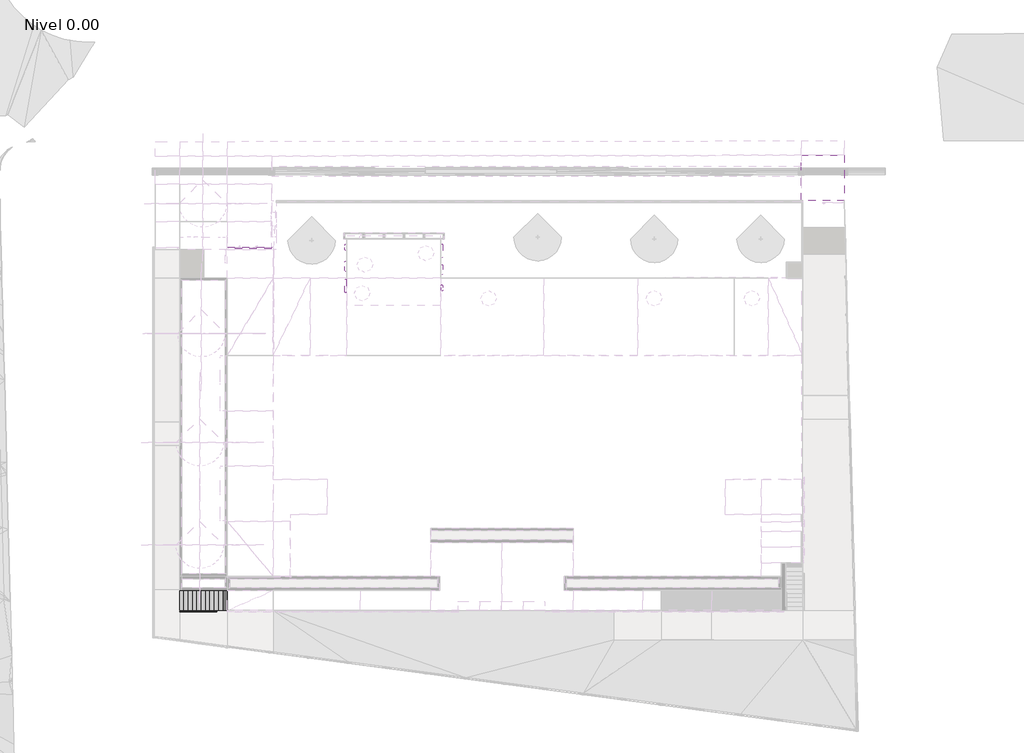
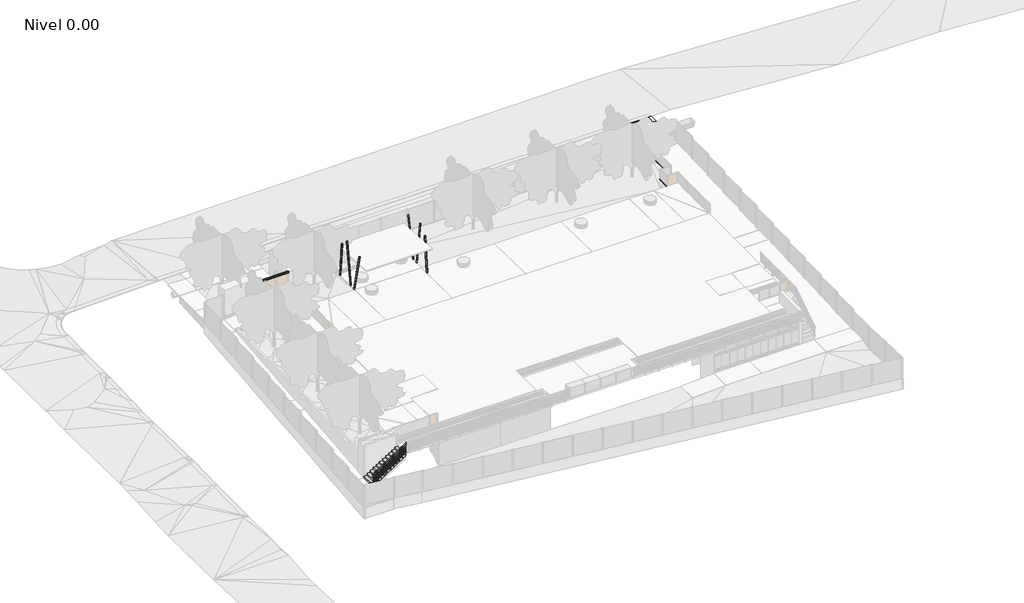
# One storey, part 3 of 10: 6 columns, 3 slabs, 1 beam, 1 railing, 1 stair flight.
"""IFC4 building model written with IfcOpenShell, lengths in millimetres."""

from ifc_helpers import new_model, si_unit, point, frame, frame_2d, origin, place, context, project, spatial, polyline, circle_curve, ellipse_curve, trimmed, segment, composite_curve, outline, extrude, faceted_brep, transform, mapped, element, save
from ifc_brep_helpers import plane_surface, cylinder_surface, advanced_brep
from components import m_double_c_channel_viga_doble_t_140mm_1bed0e81

model = new_model("IFC4")

# Units and contexts
model_context = context("Model", 3, world=origin())
ifc_project = project(units=[si_unit("LENGTHUNIT", "METRE", prefix="MILLI")], contexts=[model_context])

# Site, building, storey
site = spatial("IfcSite", under=ifc_project)
building = spatial("IfcBuilding", under=site)
storey = spatial("IfcBuildingStorey", under=building, Name="Nivel 0.00", Elevation=0.0)

# Beam
placement = place(None, origin())
m_double_c_channel_viga_doble_t_140mm_shape = m_double_c_channel_viga_doble_t_140mm_1bed0e81(model_context)
element("IfcBeam", 1, ObjectType="M_Double C-Channel : VIGA_DOBLE T-140mm", at=placement, inside=storey, context=model_context, shape_type="MappedRepresentation", body=[
    mapped(m_double_c_channel_viga_doble_t_140mm_shape, transform((-17631.1657107, 7729.2316763, 3670.0), x_axis=(1.0, 0.0, 0.0), y_axis=(0.0, 1.0, 0.0), z_axis=(0.0, 0.0, 1.0))),
])

# Columns
element("IfcColumn", 2, ObjectType="CHS-Circular Hollow Section-Column : 114.3x3CHS", at=placement, inside=storey, context=model_context, shape_type="SweptSolid", body=[
    extrude(outline(composite_curve([segment(trimmed(circle_curve(frame_2d((0.0, -50.0)), 50.0), [point((0.0, -100.0))], [point((0.0, 0.0))], False, "CARTESIAN"), True, "CONTINUOUS"), segment(trimmed(circle_curve(frame_2d((0.0, -50.0)), 50.0), [point((0.0, 0.0))], [point((0.0, -100.0))], False, "CARTESIAN"), True, "CONTINUOUS")], self_intersect=False), holes=[composite_curve([segment(trimmed(circle_curve(frame_2d((0.0, -50.0)), 47.0), [point((0.0, -97.0))], [point((0.0, -3.0))], True, "CARTESIAN"), True, "CONTINUOUS"), segment(trimmed(circle_curve(frame_2d((0.0, -50.0)), 47.0), [point((0.0, -3.0))], [point((0.0, -97.0))], True, "CARTESIAN"), True, "CONTINUOUS")], self_intersect=False)]), frame((-11385.5886216, 7912.2831348, 1600.0), z_axis=(0.0, -0.09724305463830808, 0.9952606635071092), x_axis=(0.0, -0.9952606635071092, -0.09724305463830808)), (0.0, 0.0, 1.0), 3165.0),
])
element("IfcColumn", 3, ObjectType="CHS-Circular Hollow Section-Column : 114.3x3CHS", at=placement, inside=storey, context=model_context, shape_type="SweptSolid", body=[
    extrude(outline(composite_curve([segment(trimmed(circle_curve(frame_2d((0.0, -50.0)), 50.0), [point((0.0, -100.0))], [point((0.0, 0.0))], False, "CARTESIAN"), True, "CONTINUOUS"), segment(trimmed(circle_curve(frame_2d((0.0, -50.0)), 50.0), [point((0.0, 0.0))], [point((0.0, -100.0))], False, "CARTESIAN"), True, "CONTINUOUS")], self_intersect=False), holes=[composite_curve([segment(trimmed(circle_curve(frame_2d((0.0, -50.0)), 47.0), [point((0.0, -97.0))], [point((0.0, -3.0))], True, "CARTESIAN"), True, "CONTINUOUS"), segment(trimmed(circle_curve(frame_2d((0.0, -50.0)), 47.0), [point((0.0, -3.0))], [point((0.0, -97.0))], True, "CARTESIAN"), True, "CONTINUOUS")], self_intersect=False)]), frame((-11485.194761, 6252.9306817, 1600.0), z_axis=(0.0, 0.1424922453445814, 0.989795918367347), x_axis=(0.0, 0.989795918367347, -0.1424922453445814)), (0.0, 0.0, 1.0), 3920.0),
])
element("IfcColumn", 4, ObjectType="CHS-Circular Hollow Section-Column : 114.3x3CHS", at=placement, inside=storey, context=model_context, shape_type="SweptSolid", body=[
    extrude(outline(composite_curve([segment(trimmed(circle_curve(frame_2d((0.0, -50.0)), 50.0), [point((0.0, -100.0))], [point((0.0, 0.0))], False, "CARTESIAN"), True, "CONTINUOUS"), segment(trimmed(circle_curve(frame_2d((0.0, -50.0)), 50.0), [point((0.0, 0.0))], [point((0.0, -100.0))], False, "CARTESIAN"), True, "CONTINUOUS")], self_intersect=False), holes=[composite_curve([segment(trimmed(circle_curve(frame_2d((0.0, -50.0)), 47.0), [point((0.0, -97.0))], [point((0.0, -3.0))], True, "CARTESIAN"), True, "CONTINUOUS"), segment(trimmed(circle_curve(frame_2d((0.0, -50.0)), 47.0), [point((0.0, -3.0))], [point((0.0, -97.0))], True, "CARTESIAN"), True, "CONTINUOUS")], self_intersect=False)]), frame((-11385.194761, 5676.7420042, 1600.0), z_axis=(0.0, -0.22099595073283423, 0.9752747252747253), x_axis=(0.0, -0.9752747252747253, -0.22099595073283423)), (0.0, 0.0, 1.0), 3640.0),
])
element("IfcColumn", 5, ObjectType="CHS-Circular Hollow Section-Column : 114.3x3CHS", at=placement, inside=storey, context=model_context, shape_type="SweptSolid", body=[
    extrude(outline(composite_curve([segment(trimmed(circle_curve(frame_2d((0.0, -50.0)), 50.0), [point((0.0, -100.0))], [point((0.0, 0.0))], False, "CARTESIAN"), True, "CONTINUOUS"), segment(trimmed(circle_curve(frame_2d((0.0, -50.0)), 50.0), [point((0.0, 0.0))], [point((0.0, -100.0))], False, "CARTESIAN"), True, "CONTINUOUS")], self_intersect=False), holes=[composite_curve([segment(trimmed(circle_curve(frame_2d((0.0, -50.0)), 47.0), [point((0.0, -97.0))], [point((0.0, -3.0))], True, "CARTESIAN"), True, "CONTINUOUS"), segment(trimmed(circle_curve(frame_2d((0.0, -50.0)), 47.0), [point((0.0, -3.0))], [point((0.0, -97.0))], True, "CARTESIAN"), True, "CONTINUOUS")], self_intersect=False)]), frame((-5285.194761, 7133.7297982, 1400.0), z_axis=(0.0, 0.20974193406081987, 0.9777567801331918), x_axis=(0.0, 0.9777567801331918, -0.20974193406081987)), (0.0, 0.0, 1.0), 3835.3096355),
])
element("IfcColumn", 6, ObjectType="CHS-Circular Hollow Section-Column : 114.3x3CHS", at=placement, inside=storey, context=model_context, shape_type="SweptSolid", body=[
    extrude(outline(composite_curve([segment(trimmed(circle_curve(frame_2d((0.0, -50.0)), 50.0), [point((0.0, -100.0))], [point((0.0, 0.0))], False, "CARTESIAN"), True, "CONTINUOUS"), segment(trimmed(circle_curve(frame_2d((0.0, -50.0)), 50.0), [point((0.0, 0.0))], [point((0.0, -100.0))], False, "CARTESIAN"), True, "CONTINUOUS")], self_intersect=False), holes=[composite_curve([segment(trimmed(circle_curve(frame_2d((0.0, -50.0)), 47.0), [point((0.0, -97.0))], [point((0.0, -3.0))], True, "CARTESIAN"), True, "CONTINUOUS"), segment(trimmed(circle_curve(frame_2d((0.0, -50.0)), 47.0), [point((0.0, -3.0))], [point((0.0, -97.0))], True, "CARTESIAN"), True, "CONTINUOUS")], self_intersect=False)]), frame((-5285.194761, 4997.1145059, 1400.0), z_axis=(0.0, 0.09148762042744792, 0.9958062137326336), x_axis=(0.0, 0.9958062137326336, -0.09148762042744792)), (0.0, 0.0, 1.0), 3364.1083514),
])
element("IfcColumn", 7, ObjectType="CHS-Circular Hollow Section-Column : 114.3x3CHS", at=placement, inside=storey, context=model_context, shape_type="SweptSolid", body=[
    extrude(outline(composite_curve([segment(trimmed(circle_curve(frame_2d((0.0, -50.0)), 50.0), [point((0.0, -100.0))], [point((0.0, 0.0))], False, "CARTESIAN"), True, "CONTINUOUS"), segment(trimmed(circle_curve(frame_2d((0.0, -50.0)), 50.0), [point((0.0, 0.0))], [point((0.0, -100.0))], False, "CARTESIAN"), True, "CONTINUOUS")], self_intersect=False), holes=[composite_curve([segment(trimmed(circle_curve(frame_2d((0.0, -50.0)), 47.0), [point((0.0, -97.0))], [point((0.0, -3.0))], True, "CARTESIAN"), True, "CONTINUOUS"), segment(trimmed(circle_curve(frame_2d((0.0, -50.0)), 47.0), [point((0.0, -3.0))], [point((0.0, -97.0))], True, "CARTESIAN"), True, "CONTINUOUS")], self_intersect=False)]), frame((-5185.194761, 6603.3923588, 1400.0), z_axis=(0.0, -0.1356390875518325, 0.9907583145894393), x_axis=(0.0, -0.9907583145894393, -0.1356390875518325)), (0.0, 0.0, 1.0), 4118.0577946),
])

# Railing
element("IfcRailing", 8, ObjectType="BARANDA_RAMPA_1000mm", at=placement, inside=storey, context=model_context, shape_type="SolidModel", body=[
    advanced_brep(
    [(-22137.5711159, -15743.9941239, 490.2797911), (-22137.5711159, -15693.9941239, 490.2797911), (-19057.5711158, -15743.9941239, 2470.2797911), (-19057.5711158, -15693.9941239, 2470.2797911)],
    [
        (0, 1, ellipse_curve(frame((-22137.5711159, -15718.9941239, 490.2797911), z_axis=(-1.0, 0.0, 0.0), x_axis=(0.0, 0.0, -1.0)), 29.7202089, 25.0)),
        (1, 0, ellipse_curve(frame((-22137.5711159, -15718.9941239, 490.2797911), z_axis=(-1.0, 0.0, 0.0), x_axis=(0.0, 0.0, -1.0)), 29.7202089, 25.0)),
        (2, 3, ellipse_curve(frame((-19057.5711158, -15718.9941239, 2470.2797911), z_axis=(1.0, 0.0, 0.0), x_axis=(0.0, 0.0, -1.0)), 29.7202089, 25.0)),
        (3, 2, ellipse_curve(frame((-19057.5711158, -15718.9941239, 2470.2797911), z_axis=(1.0, 0.0, 0.0), x_axis=(0.0, 0.0, -1.0)), 29.7202089, 25.0)),
        (0, 2),
        (3, 1),
    ],
    [
        plane_surface(frame((-22137.5711159, -15718.9941239, 520.0), z_axis=(-1.0, 0.0, 0.0), x_axis=(0.0, 1.0, 0.0))),
        plane_surface(frame((-19057.5711158, -15718.9941239, 2500.0), z_axis=(1.0, 0.0, 0.0), x_axis=(0.0, 1.0, 0.0))),
        cylinder_surface(frame((-22124.0521761, -15718.9941239, 498.9705381), z_axis=(-0.841178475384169, 0.0, -0.5407575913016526), x_axis=(0.0, 1.0, 0.0)), 25.0),
    ],
    [
        (0, [[1, 2]]),
        (1, [[3, 4]]),
        (2, [[-1, 5, -4, 6]]),
        (2, [[-2, -6, -3, -5]]),
    ],
),
    extrude(outline(polyline([(320.0, -22137.5711159), (305.7342997, -22137.5711159), (2285.7342997, -19057.5711158), (2300.0, -19057.5711158), (320.0, -22137.5711159)])), frame((0.0, -15748.9941239, 0.0), z_axis=(0.0, 1.0, 0.0), x_axis=(0.0, 0.0, 1.0)), (0.0, 0.0, 1.0), 50.0),
    extrude(outline(polyline([(-330.0, -22137.5711159), (-344.2657003, -22137.5711159), (1635.7342997, -19057.5711158), (1650.0, -19057.5711158), (-330.0, -22137.5711159)])), frame((0.0, -15748.9941239, 0.0), z_axis=(0.0, 1.0, 0.0), x_axis=(0.0, 0.0, 1.0)), (0.0, 0.0, 1.0), 50.0),
    extrude(outline(polyline([(1602.4285714, -19131.5711159), (2240.4285714, -19131.5711159), (2232.7142857, -19143.5711159), (1594.7142857, -19143.5711159), (1602.4285714, -19131.5711159)])), frame((0.0, -15748.9941239, 0.0), z_axis=(0.0, 1.0, 0.0), x_axis=(0.0, 0.0, 1.0)), (0.0, 0.0, 1.0), 50.0),
    extrude(outline(polyline([(1525.2857142, -19251.5711159), (2163.2857142, -19251.5711159), (2155.5714285, -19263.5711159), (1517.5714285, -19263.5711159), (1525.2857142, -19251.5711159)])), frame((0.0, -15748.9941239, 0.0), z_axis=(0.0, 1.0, 0.0), x_axis=(0.0, 0.0, 1.0)), (0.0, 0.0, 1.0), 50.0),
    extrude(outline(polyline([(1448.1428571, -19371.5711159), (2086.1428571, -19371.5711159), (2078.4285714, -19383.5711159), (1440.4285714, -19383.5711159), (1448.1428571, -19371.5711159)])), frame((0.0, -15748.9941239, 0.0), z_axis=(0.0, 1.0, 0.0), x_axis=(0.0, 0.0, 1.0)), (0.0, 0.0, 1.0), 50.0),
    extrude(outline(polyline([(1370.9999999, -19491.5711159), (2008.9999999, -19491.5711159), (2001.2857142, -19503.5711159), (1363.2857142, -19503.5711159), (1370.9999999, -19491.5711159)])), frame((0.0, -15748.9941239, 0.0), z_axis=(0.0, 1.0, 0.0), x_axis=(0.0, 0.0, 1.0)), (0.0, 0.0, 1.0), 50.0),
    extrude(outline(polyline([(1293.8571428, -19611.5711159), (1931.8571428, -19611.5711159), (1924.1428571, -19623.5711159), (1286.1428571, -19623.5711159), (1293.8571428, -19611.5711159)])), frame((0.0, -15748.9941239, 0.0), z_axis=(0.0, 1.0, 0.0), x_axis=(0.0, 0.0, 1.0)), (0.0, 0.0, 1.0), 50.0),
    extrude(outline(polyline([(912.8571428, -19731.5711159), (2007.2738679, -19731.5711159), (1999.5595822, -19743.5711159), (912.8571428, -19743.5711159), (912.8571428, -19731.5711159)])), frame((0.0, -15748.9941239, 0.0), z_axis=(0.0, 1.0, 0.0), x_axis=(0.0, 0.0, 1.0)), (0.0, 0.0, 1.0), 50.0),
    extrude(outline(polyline([(1139.5714285, -19851.5711159), (1777.5714285, -19851.5711159), (1769.8571428, -19863.5711159), (1131.8571428, -19863.5711159), (1139.5714285, -19851.5711159)])), frame((0.0, -15748.9941239, 0.0), z_axis=(0.0, 1.0, 0.0), x_axis=(0.0, 0.0, 1.0)), (0.0, 0.0, 1.0), 50.0),
    extrude(outline(polyline([(1062.4285714, -19971.5711159), (1700.4285714, -19971.5711159), (1692.7142857, -19983.5711159), (1054.7142857, -19983.5711159), (1062.4285714, -19971.5711159)])), frame((0.0, -15748.9941239, 0.0), z_axis=(0.0, 1.0, 0.0), x_axis=(0.0, 0.0, 1.0)), (0.0, 0.0, 1.0), 50.0),
    extrude(outline(polyline([(985.2857142, -20091.5711159), (1623.2857142, -20091.5711159), (1615.5714285, -20103.5711159), (977.5714285, -20103.5711159), (985.2857142, -20091.5711159)])), frame((0.0, -15748.9941239, 0.0), z_axis=(0.0, 1.0, 0.0), x_axis=(0.0, 0.0, 1.0)), (0.0, 0.0, 1.0), 50.0),
    extrude(outline(polyline([(908.1428571, -20211.5711159), (1546.1428571, -20211.5711159), (1538.4285714, -20223.5711159), (900.4285714, -20223.5711159), (908.1428571, -20211.5711159)])), frame((0.0, -15748.9941239, 0.0), z_axis=(0.0, 1.0, 0.0), x_axis=(0.0, 0.0, 1.0)), (0.0, 0.0, 1.0), 50.0),
    extrude(outline(polyline([(831.0, -20331.5711159), (1469.0, -20331.5711159), (1461.2857143, -20343.5711159), (823.2857143, -20343.5711159), (831.0, -20331.5711159)])), frame((0.0, -15748.9941239, 0.0), z_axis=(0.0, 1.0, 0.0), x_axis=(0.0, 0.0, 1.0)), (0.0, 0.0, 1.0), 50.0),
    extrude(outline(polyline([(753.8571428, -20451.5711159), (1391.8571428, -20451.5711159), (1384.1428571, -20463.5711159), (746.1428571, -20463.5711159), (753.8571428, -20451.5711159)])), frame((0.0, -15748.9941239, 0.0), z_axis=(0.0, 1.0, 0.0), x_axis=(0.0, 0.0, 1.0)), (0.0, 0.0, 1.0), 50.0),
    extrude(outline(polyline([(676.7142857, -20571.5711159), (1314.7142857, -20571.5711159), (1307.0, -20583.5711159), (669.0, -20583.5711159), (676.7142857, -20571.5711159)])), frame((0.0, -15748.9941239, 0.0), z_axis=(0.0, 1.0, 0.0), x_axis=(0.0, 0.0, 1.0)), (0.0, 0.0, 1.0), 50.0),
    extrude(outline(polyline([(599.5714285, -20691.5711159), (1237.5714285, -20691.5711159), (1229.8571428, -20703.5711159), (591.8571428, -20703.5711159), (599.5714285, -20691.5711159)])), frame((0.0, -15748.9941239, 0.0), z_axis=(0.0, 1.0, 0.0), x_axis=(0.0, 0.0, 1.0)), (0.0, 0.0, 1.0), 50.0),
    extrude(outline(polyline([(522.4285714, -20811.5711159), (1160.4285714, -20811.5711159), (1152.7142857, -20823.5711159), (514.7142857, -20823.5711159), (522.4285714, -20811.5711159)])), frame((0.0, -15748.9941239, 0.0), z_axis=(0.0, 1.0, 0.0), x_axis=(0.0, 0.0, 1.0)), (0.0, 0.0, 1.0), 50.0),
    extrude(outline(polyline([(141.4285714, -20931.5711159), (1235.8452965, -20931.5711159), (1228.1310108, -20943.5711159), (141.4285714, -20943.5711159), (141.4285714, -20931.5711159)])), frame((0.0, -15748.9941239, 0.0), z_axis=(0.0, 1.0, 0.0), x_axis=(0.0, 0.0, 1.0)), (0.0, 0.0, 1.0), 50.0),
    extrude(outline(polyline([(368.1428571, -21051.5711159), (1006.1428571, -21051.5711159), (998.4285714, -21063.5711159), (360.4285714, -21063.5711159), (368.1428571, -21051.5711159)])), frame((0.0, -15748.9941239, 0.0), z_axis=(0.0, 1.0, 0.0), x_axis=(0.0, 0.0, 1.0)), (0.0, 0.0, 1.0), 50.0),
    extrude(outline(polyline([(291.0, -21171.5711159), (929.0, -21171.5711159), (921.2857143, -21183.5711159), (283.2857143, -21183.5711159), (291.0, -21171.5711159)])), frame((0.0, -15748.9941239, 0.0), z_axis=(0.0, 1.0, 0.0), x_axis=(0.0, 0.0, 1.0)), (0.0, 0.0, 1.0), 50.0),
    extrude(outline(polyline([(213.8571428, -21291.5711159), (851.8571428, -21291.5711159), (844.1428571, -21303.5711159), (206.1428571, -21303.5711159), (213.8571428, -21291.5711159)])), frame((0.0, -15748.9941239, 0.0), z_axis=(0.0, 1.0, 0.0), x_axis=(0.0, 0.0, 1.0)), (0.0, 0.0, 1.0), 50.0),
    extrude(outline(polyline([(136.7142857, -21411.5711159), (774.7142857, -21411.5711159), (767.0, -21423.5711159), (129.0, -21423.5711159), (136.7142857, -21411.5711159)])), frame((0.0, -15748.9941239, 0.0), z_axis=(0.0, 1.0, 0.0), x_axis=(0.0, 0.0, 1.0)), (0.0, 0.0, 1.0), 50.0),
    extrude(outline(polyline([(59.5714286, -21531.5711159), (697.5714286, -21531.5711159), (689.8571428, -21543.5711159), (51.8571428, -21543.5711159), (59.5714286, -21531.5711159)])), frame((0.0, -15748.9941239, 0.0), z_axis=(0.0, 1.0, 0.0), x_axis=(0.0, 0.0, 1.0)), (0.0, 0.0, 1.0), 50.0),
    extrude(outline(polyline([(-17.5714286, -21651.5711159), (620.4285714, -21651.5711159), (612.7142857, -21663.5711159), (-25.2857143, -21663.5711159), (-17.5714286, -21651.5711159)])), frame((0.0, -15748.9941239, 0.0), z_axis=(0.0, 1.0, 0.0), x_axis=(0.0, 0.0, 1.0)), (0.0, 0.0, 1.0), 50.0),
    extrude(outline(polyline([(-94.7142857, -21771.5711159), (543.2857143, -21771.5711159), (535.5714286, -21783.5711159), (-102.4285714, -21783.5711159), (-94.7142857, -21771.5711159)])), frame((0.0, -15748.9941239, 0.0), z_axis=(0.0, 1.0, 0.0), x_axis=(0.0, 0.0, 1.0)), (0.0, 0.0, 1.0), 50.0),
    extrude(outline(polyline([(-171.8571429, -21891.5711159), (466.1428571, -21891.5711159), (458.4285714, -21903.5711159), (-179.5714286, -21903.5711159), (-171.8571429, -21891.5711159)])), frame((0.0, -15748.9941239, 0.0), z_axis=(0.0, 1.0, 0.0), x_axis=(0.0, 0.0, 1.0)), (0.0, 0.0, 1.0), 50.0),
    extrude(outline(polyline([(-249.0, -22011.5711159), (389.0, -22011.5711159), (381.2857143, -22023.5711159), (-256.7142857, -22023.5711159), (-249.0, -22011.5711159)])), frame((0.0, -15748.9941239, 0.0), z_axis=(0.0, 1.0, 0.0), x_axis=(0.0, 0.0, 1.0)), (0.0, 0.0, 1.0), 50.0),
    extrude(outline(polyline([(-22037.5711159, -15698.9941239), (-21987.5711159, -15698.9941239), (-21987.5711159, -15748.9941239), (-22037.5711159, -15748.9941239), (-22037.5711159, -15698.9941239)])), frame((0.0, 0.0, -399.6428571), z_axis=(0.0, 0.0, 1.0), x_axis=(1.0, 0.0, 0.0)), (0.0, 0.0, 1.0), 950.0),
])

# Slabs
element("IfcSlab", 9, ObjectType="HORMIGON_M.CONTEN_1000mm", at=placement, inside=storey, context=model_context, shape_type="SweptSolid", body=[
    extrude(outline(polyline([(17005.5257486, 6762.2563048), (17005.5257486, 5786.4923287), (16955.5257486, 5786.4923287), (16955.5257486, 6812.2563048), (17941.2770642, 6812.2563048), (17941.2770642, 10628.4129304), (18005.5257456, 10628.4129304), (18005.5257456, 6762.2563048), (17005.5257486, 6762.2563048)])), frame((0.0, 0.0, 500.0), z_axis=(0.0, 0.0, 1.0), x_axis=(1.0, 0.0, 0.0)), (0.0, 0.0, 1.0), 1000.0),
])
element("IfcSlab", 10, ObjectType="HORMIGON_EXTERIOR_150mm", at=placement, inside=storey, context=model_context, shape_type="SweptSolid", body=[
    extrude(outline(polyline([(20692.9803025, 13691.7883545), (20692.9803025, 10773.5573462), (17905.5255982, 10773.5573462), (17905.5255982, 13691.7883545), (20692.9803025, 13691.7883545)])), frame((0.0, 0.0, 1349.9998947), z_axis=(0.0, 0.0, 1.0), x_axis=(1.0, 0.0, 0.0)), (0.0, 0.0, 1.0), 150.0),
])
element("IfcSlab", 11, ObjectType="HORMIGON_EXTERIOR_150mm", at=placement, inside=storey, context=model_context, shape_type="SweptSolid", body=[
    extrude(outline(polyline([(17905.5255982, 14624.720187), (20690.8101092, 14627.6471353), (20690.8101092, 13691.7883545), (17905.5255982, 13691.7883545), (17905.5255982, 14624.720187)])), frame((0.0, 0.0, 1349.9998947), z_axis=(0.0, 0.0, 1.0), x_axis=(1.0, 0.0, 0.0)), (0.0, 0.0, 1.0), 150.0),
])

# Stair flight
element("IfcStairFlight", 12, ObjectType="150mm Depth", at=placement, inside=storey, context=model_context, shape_type="Brep", body=[
    faceted_brep([(-21857.571551, -14350.4600242, -480.0), (-22137.5711159, -14350.4600242, -480.0), (-22137.5711159, -15648.9941239, -480.0), (-21857.571551, -15648.9941239, -480.0), (-21857.571551, -14350.4600242, -658.321533), (-21860.1824996, -14350.4600242, -660.0), (-22137.5711159, -14350.4600242, -660.0), (-22137.5711159, -15648.9941239, -660.0), (-21860.1824996, -15648.9941239, -660.0), (-21857.571551, -15648.9941239, -658.321533), (-21577.571551, -14350.4600242, -300.0), (-21857.571551, -14350.4600242, -300.0), (-21857.571551, -15648.9941239, -300.0), (-21577.571551, -15648.9941239, -300.0), (-21577.571551, -14350.4600242, -478.3215331), (-21577.571551, -15648.9941239, -478.3215331), (-21297.5715511, -14350.4600242, -120.0), (-21577.571551, -14350.4600242, -120.0), (-21577.571551, -15648.9941239, -120.0), (-21297.5715511, -15648.9941239, -120.0), (-21297.5715511, -14350.4600242, -298.3215331), (-21297.5715511, -15648.9941239, -298.3215331), (-21017.5715512, -14350.4600242, 60.0), (-21297.5715511, -14350.4600242, 60.0), (-21297.5715511, -15648.9941239, 60.0), (-21017.5715512, -15648.9941239, 60.0), (-21017.5715512, -14350.4600242, -118.3215332), (-21017.5715512, -15648.9941239, -118.3215332), (-20737.5715513, -14350.4600242, 240.0), (-21017.5715512, -14350.4600242, 240.0), (-21017.5715512, -15648.9941239, 240.0), (-20737.5715513, -15648.9941239, 240.0), (-20737.5715513, -14350.4600242, 61.6784668), (-20737.5715513, -15648.9941239, 61.6784668), (-20457.5715514, -14350.4600242, 420.0), (-20737.5715513, -14350.4600242, 420.0), (-20737.5715513, -15648.9941239, 420.0), (-20457.5715514, -15648.9941239, 420.0), (-20457.5715514, -14350.4600242, 241.6784667), (-20457.5715514, -15648.9941239, 241.6784667), (-20177.5715509, -14350.4600242, 600.0), (-20457.5715514, -14350.4600242, 600.0), (-20457.5715514, -15648.9941239, 600.0), (-20177.5715509, -15648.9941239, 600.0), (-20177.5715509, -14350.4600242, 421.678467), (-20177.5715509, -15648.9941239, 421.678467), (-19897.571551, -14350.4600242, 780.0), (-20177.5715509, -14350.4600242, 780.0), (-20177.5715509, -15648.9941239, 780.0), (-19897.571551, -15648.9941239, 780.0), (-19897.571551, -14350.4600242, 601.6784669), (-19897.571551, -15648.9941239, 601.6784669), (-19617.5715511, -14350.4600242, 960.0), (-19897.571551, -14350.4600242, 960.0), (-19897.571551, -15648.9941239, 960.0), (-19617.5715511, -15648.9941239, 960.0), (-19617.5715511, -14350.4600242, 781.6784669), (-19617.5715511, -15648.9941239, 781.6784669), (-19337.5715512, -14350.4600242, 1140.0), (-19617.5715511, -14350.4600242, 1140.0), (-19617.5715511, -15648.9941239, 1140.0), (-19337.5715512, -15648.9941239, 1140.0), (-19337.5715512, -14350.4600242, 961.6784668), (-19337.5715512, -15648.9941239, 961.6784668), (-19057.5711158, -14350.4600242, 1320.0), (-19337.5715512, -14350.4600242, 1320.0), (-19337.5715512, -15648.9941239, 1320.0), (-19057.5711158, -15648.9941239, 1320.0), (-19057.5711158, -14350.4600242, 1141.6787467), (-19057.5711158, -15648.9941239, 1141.6787467)], [[[0, 1, 2, 3]], [[1, 0, 4, 5, 6]], [[2, 1, 6, 7]], [[3, 2, 7, 8, 9]], [[10, 11, 12, 13]], [[11, 10, 14, 4, 0]], [[0, 3, 12, 11]], [[13, 12, 3, 9, 15]], [[16, 17, 18, 19]], [[17, 16, 20, 14, 10]], [[10, 13, 18, 17]], [[19, 18, 13, 15, 21]], [[22, 23, 24, 25]], [[23, 22, 26, 20, 16]], [[16, 19, 24, 23]], [[25, 24, 19, 21, 27]], [[28, 29, 30, 31]], [[29, 28, 32, 26, 22]], [[22, 25, 30, 29]], [[31, 30, 25, 27, 33]], [[34, 35, 36, 37]], [[35, 34, 38, 32, 28]], [[28, 31, 36, 35]], [[37, 36, 31, 33, 39]], [[40, 41, 42, 43]], [[41, 40, 44, 38, 34]], [[34, 37, 42, 41]], [[43, 42, 37, 39, 45]], [[46, 47, 48, 49]], [[47, 46, 50, 44, 40]], [[40, 43, 48, 47]], [[49, 48, 43, 45, 51]], [[52, 53, 54, 55]], [[53, 52, 56, 50, 46]], [[46, 49, 54, 53]], [[55, 54, 49, 51, 57]], [[58, 59, 60, 61]], [[59, 58, 62, 56, 52]], [[52, 55, 60, 59]], [[61, 60, 55, 57, 63]], [[64, 65, 66, 67]], [[65, 64, 68, 62, 58]], [[58, 61, 66, 65]], [[67, 66, 61, 63, 69]], [[64, 67, 69, 68]], [[7, 6, 5, 8]], [[8, 5, 4, 14, 20, 26, 32, 38, 44, 50, 56, 62, 68, 69, 63, 57, 51, 45, 39, 33, 27, 21, 15, 9]]]),
])

save(model, "model.ifc")
